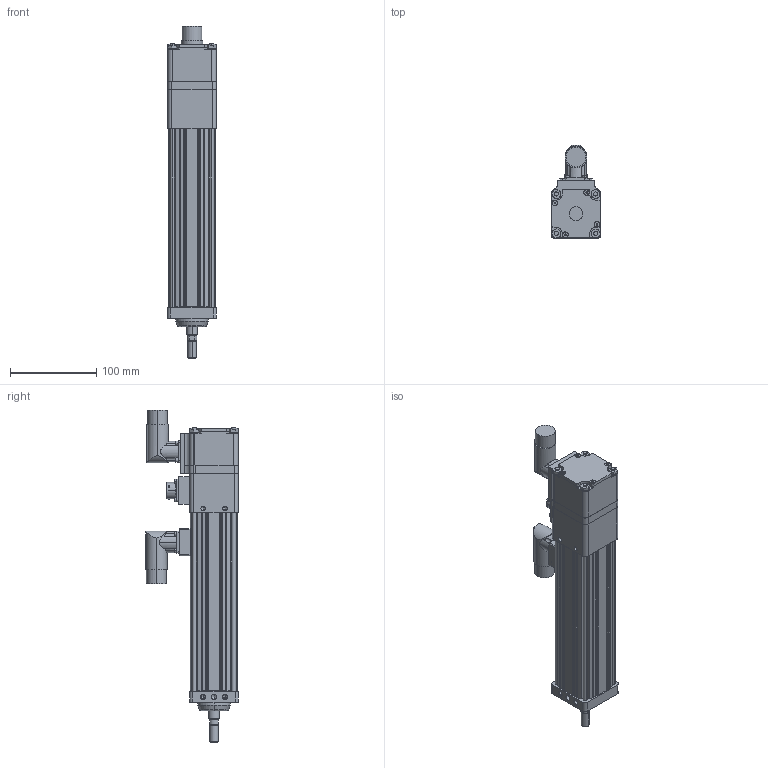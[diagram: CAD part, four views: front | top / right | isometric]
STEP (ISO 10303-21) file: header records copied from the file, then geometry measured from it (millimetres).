
FILE_DESCRIPTION (( 'STEP AP203' ), '1' );
FILE_NAME ('GSM20-6 inch Single Side Mount, Euro Conn, M Rod, RB.step', '2008-05-29T11:49:51', ( 'SaharaKiran' ), ( 'I2T2' ), 'SwSTEP 2.0', 'SolidWorks 2008', '' );
FILE_SCHEMA (( 'CONFIG_CONTROL_DESIGN' ));
Length unit declared in the file: inch
Products named in the file (20): END CAP_31199; MAIN ROD_M-MAIN ROD-6 inch; REAR BRAKE_31205; 31603; 31335; 12709; GSM20-6 inch Single Side Mount, Euro Conn, M Rod, RB; 12367; CYLINDER_31367-6 inch; 19738; CASE_31193-6 inch; 12692; END CAP_SSM-31199-EURO-RB; 19819; 20718; 31527_90585A200; 20494; 11028; 12710; TieRod_14395-6"
Assembly tree (43 placements, depth 3):
  GSM20-6 inch Single Side Mount, Euro Conn, M Rod, RB
    12709  x4
    CYLINDER_31367-6 inch
    12710  x4
    12367  x4
    19738
    12692  x2
    20718
    31603
    MAIN ROD_M-MAIN ROD-6 inch
    CASE_31193-6 inch
    19819
    TieRod_14395-6"  x4
    END CAP_SSM-31199-EURO-RB
      END CAP_31199
      12367  x8
      11028
      REAR BRAKE_31205
      31527_90585A200  x4
      20494
      31335
Bounding box: 56.9 x 108.01 x 385.59 mm (x, y, z)
Volume: 590359.7 mm3; surface area: 276481.3 mm2
Topology: 42 solids, 42 shells, 1782 faces, 4210 edges, 2577 vertices
Faces by surface type: cylinder 786, plane 548, cone 368, torus 64, sphere 16
Entity records: 40658 total; most frequent: CARTESIAN_POINT 8290, DIRECTION 6688, ORIENTED_EDGE 5804, EDGE_CURVE 2902, AXIS2_PLACEMENT_3D 2673, VERTEX_POINT 1858, EDGE_LOOP 1462, CIRCLE 1412
